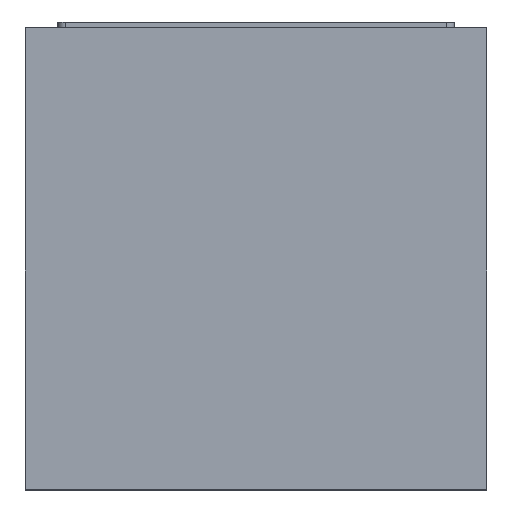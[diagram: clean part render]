
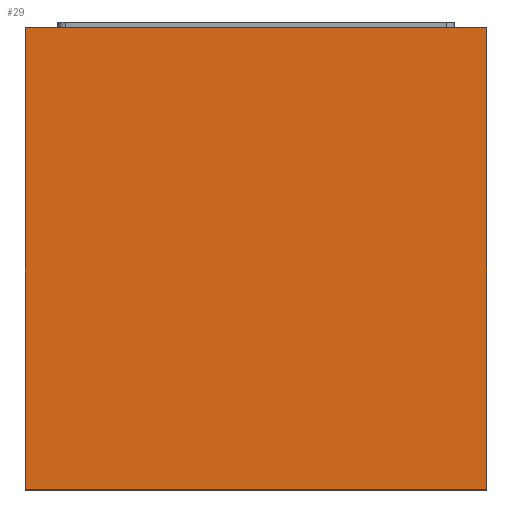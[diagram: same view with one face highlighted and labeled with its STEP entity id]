
A CAD part, top view. The second image highlights one B-rep face of the part: STEP entity #29.
In plain terms, the highlighted planar face has unit normal (0, 0, 1).
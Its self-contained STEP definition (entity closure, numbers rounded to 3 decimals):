
#29=ADVANCED_FACE('',(#133),#1390,.T.);
#133=FACE_OUTER_BOUND('',#222,.T.);
#222=EDGE_LOOP('',(#350,#351,#352,#353));
#350=ORIENTED_EDGE('',*,*,#763,.F.);
#351=ORIENTED_EDGE('',*,*,#769,.F.);
#352=ORIENTED_EDGE('',*,*,#768,.F.);
#353=ORIENTED_EDGE('',*,*,#766,.F.);
#763=EDGE_CURVE('',#1203,#1202,#1069,.T.);
#766=EDGE_CURVE('',#1202,#1204,#1072,.T.);
#768=EDGE_CURVE('',#1204,#1205,#1074,.T.);
#769=EDGE_CURVE('',#1205,#1203,#1075,.T.);
#1069=B_SPLINE_CURVE_WITH_KNOTS('',1,(#2305,#2306),.UNSPECIFIED.,.F.,.F.,
(2,2),(-120.,0.),.UNSPECIFIED.);
#1072=B_SPLINE_CURVE_WITH_KNOTS('',1,(#2311,#2312),.UNSPECIFIED.,.F.,.F.,
(2,2),(-120.,0.),.UNSPECIFIED.);
#1074=B_SPLINE_CURVE_WITH_KNOTS('',1,(#2315,#2316),.UNSPECIFIED.,.F.,.F.,
(2,2),(-120.,0.),.UNSPECIFIED.);
#1075=B_SPLINE_CURVE_WITH_KNOTS('',1,(#2317,#2318),.UNSPECIFIED.,.F.,.F.,
(2,2),(-120.,0.),.UNSPECIFIED.);
#1202=VERTEX_POINT('',#2149);
#1203=VERTEX_POINT('',#2150);
#1204=VERTEX_POINT('',#2151);
#1205=VERTEX_POINT('',#2152);
#1390=PLANE('',#1459);
#1459=AXIS2_PLACEMENT_3D('',#1563,#1511,$);
#1511=DIRECTION('',(0.,0.,1.));
#1563=CARTESIAN_POINT('',(-72.141,-93.62,143.019));
#2149=CARTESIAN_POINT('',(-60.021,38.5,143.019));
#2150=CARTESIAN_POINT('',(-60.021,-81.5,143.019));
#2151=CARTESIAN_POINT('',(59.979,38.5,143.019));
#2152=CARTESIAN_POINT('',(59.979,-81.5,143.019));
#2305=CARTESIAN_POINT('',(-60.021,-81.5,143.019));
#2306=CARTESIAN_POINT('',(-60.021,38.5,143.019));
#2311=CARTESIAN_POINT('',(-60.021,38.5,143.019));
#2312=CARTESIAN_POINT('',(59.979,38.5,143.019));
#2315=CARTESIAN_POINT('',(59.979,38.5,143.019));
#2316=CARTESIAN_POINT('',(59.979,-81.5,143.019));
#2317=CARTESIAN_POINT('',(59.979,-81.5,143.019));
#2318=CARTESIAN_POINT('',(-60.021,-81.5,143.019));
